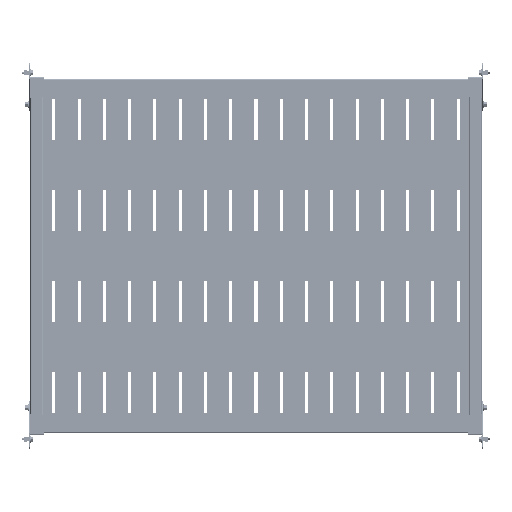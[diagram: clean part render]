
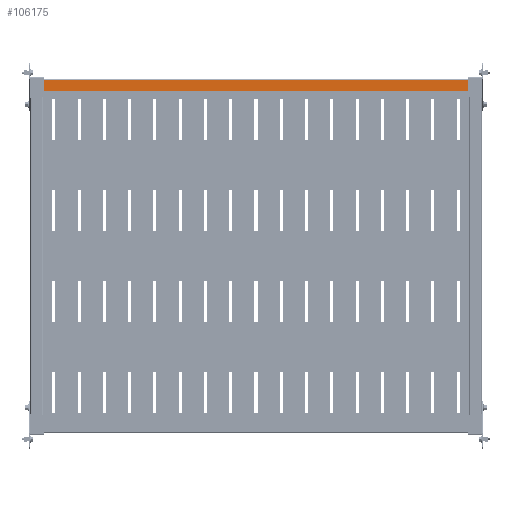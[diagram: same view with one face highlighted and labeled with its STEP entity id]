
A CAD part, front view. The second image highlights one B-rep face of the part: STEP entity #106175.
In plain terms, the highlighted planar face has unit normal (0, -1, 0).
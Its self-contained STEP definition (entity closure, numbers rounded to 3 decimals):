
#3465 = AXIS2_PLACEMENT_3D ( 'NONE', #11754, #44577, #77350 ) ;
#5125 = EDGE_CURVE ( 'NONE', #104265, #98583, #49883, .T. ) ;
#6779 = CARTESIAN_POINT ( 'NONE',  ( 325.5, -45., 0. ) ) ;
#6794 = CARTESIAN_POINT ( 'NONE',  ( 347.9, -45., 419.5 ) ) ;
#11754 = CARTESIAN_POINT ( 'NONE',  ( 328.5, -45., 416.5 ) ) ;
#16295 = ORIENTED_EDGE ( 'NONE', *, *, #81912, .T. ) ;
#17990 = EDGE_LOOP ( 'NONE', ( #67242, #35479, #16295, #63152, #60492, #41695 ) ) ;
#22751 = EDGE_CURVE ( 'NONE', #96732, #73288, #91563, .T. ) ;
#24271 = LINE ( 'NONE', #89890, #76897 ) ;
#24508 = EDGE_CURVE ( 'NONE', #27022, #104265, #103117, .T. ) ;
#25610 = CARTESIAN_POINT ( 'NONE',  ( 328.5, -45., -419.5 ) ) ;
#26312 = VECTOR ( 'NONE', #95968, 1000. ) ;
#27022 = VERTEX_POINT ( 'NONE', #6794 ) ;
#30364 = LINE ( 'NONE', #63187, #26312 ) ;
#30419 = VECTOR ( 'NONE', #85921, 1000. ) ;
#32358 = CARTESIAN_POINT ( 'NONE',  ( 325.5, -45., 416.5 ) ) ;
#35479 = ORIENTED_EDGE ( 'NONE', *, *, #5125, .T. ) ;
#35765 = DIRECTION ( 'NONE',  ( 0., 1., 0. ) ) ;
#36605 = VECTOR ( 'NONE', #105232, 1000. ) ;
#41695 = ORIENTED_EDGE ( 'NONE', *, *, #100000, .F. ) ;
#43332 = FACE_OUTER_BOUND ( 'NONE', #17990, .T. ) ;
#44520 = CARTESIAN_POINT ( 'NONE',  ( 0., -45., 419.5 ) ) ;
#44577 = DIRECTION ( 'NONE',  ( 0., -1., 0. ) ) ;
#49883 = CIRCLE ( 'NONE', #3465, 3. ) ;
#50323 = PLANE ( 'NONE',  #52338 ) ;
#52338 = AXIS2_PLACEMENT_3D ( 'NONE', #101417, #35765, #68591 ) ;
#55615 = EDGE_CURVE ( 'NONE', #73288, #96081, #30364, .T. ) ;
#57928 = LINE ( 'NONE', #6779, #36605 ) ;
#60492 = ORIENTED_EDGE ( 'NONE', *, *, #55615, .T. ) ;
#62911 = CARTESIAN_POINT ( 'NONE',  ( 328.5, -45., 419.5 ) ) ;
#63152 = ORIENTED_EDGE ( 'NONE', *, *, #22751, .T. ) ;
#63187 = CARTESIAN_POINT ( 'NONE',  ( 0., -45., -419.5 ) ) ;
#66356 = CARTESIAN_POINT ( 'NONE',  ( 325.5, -45., -416.5 ) ) ;
#67242 = ORIENTED_EDGE ( 'NONE', *, *, #24508, .T. ) ;
#68591 = DIRECTION ( 'NONE',  ( -1., 0., 0. ) ) ;
#72165 = CARTESIAN_POINT ( 'NONE',  ( 328.5, -45., -416.5 ) ) ;
#73288 = VERTEX_POINT ( 'NONE', #25610 ) ;
#76897 = VECTOR ( 'NONE', #89352, 1000. ) ;
#77350 = DIRECTION ( 'NONE',  ( -1., 0., 0. ) ) ;
#81912 = EDGE_CURVE ( 'NONE', #98583, #96732, #57928, .T. ) ;
#85380 = CARTESIAN_POINT ( 'NONE',  ( 347.9, -45., -419.5 ) ) ;
#85921 = DIRECTION ( 'NONE',  ( -1., 0., 0. ) ) ;
#89352 = DIRECTION ( 'NONE',  ( 0., 0., -1. ) ) ;
#89890 = CARTESIAN_POINT ( 'NONE',  ( 347.9, -45., -419.5 ) ) ;
#91563 = CIRCLE ( 'NONE', #98440, 3. ) ;
#95968 = DIRECTION ( 'NONE',  ( 1., 0., 0. ) ) ;
#96081 = VERTEX_POINT ( 'NONE', #85380 ) ;
#96732 = VERTEX_POINT ( 'NONE', #66356 ) ;
#96935 = DIRECTION ( 'NONE',  ( -1., 0., 0. ) ) ;
#98440 = AXIS2_PLACEMENT_3D ( 'NONE', #72165, #103414, #96935 ) ;
#98583 = VERTEX_POINT ( 'NONE', #32358 ) ;
#100000 = EDGE_CURVE ( 'NONE', #27022, #96081, #24271, .T. ) ;
#101417 = CARTESIAN_POINT ( 'NONE',  ( 0., -45., 0. ) ) ;
#103117 = LINE ( 'NONE', #44520, #30419 ) ;
#103414 = DIRECTION ( 'NONE',  ( 0., -1., 0. ) ) ;
#104265 = VERTEX_POINT ( 'NONE', #62911 ) ;
#105232 = DIRECTION ( 'NONE',  ( 0., 0., -1. ) ) ;
#106175 = ADVANCED_FACE ( 'NONE', ( #43332 ), #50323, .F. ) ;
